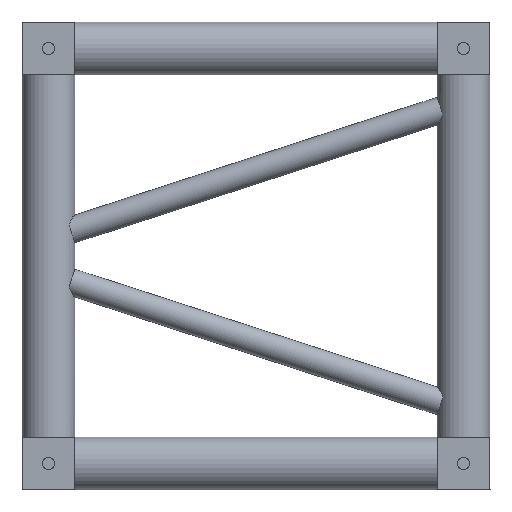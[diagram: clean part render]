
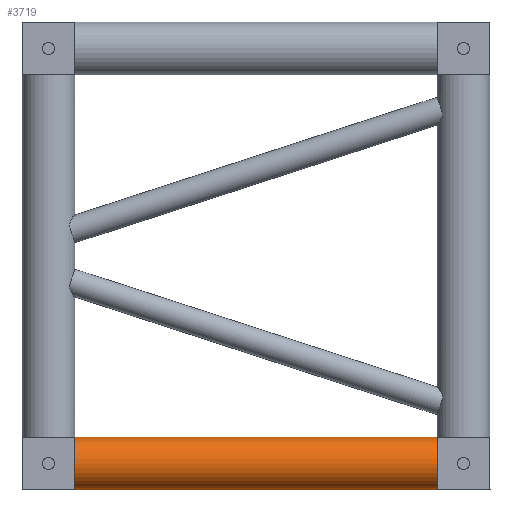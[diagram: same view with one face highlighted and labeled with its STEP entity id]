
A CAD part, left-side view. The second image highlights one B-rep face of the part: STEP entity #3719.
In plain terms, the highlighted cylindrical face has radius 30 mm (diameter 60 mm), a full revolution.
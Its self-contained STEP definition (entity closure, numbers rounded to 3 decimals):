
#684=FACE_BOUND('',#1165,.T.);
#878=FACE_OUTER_BOUND('',#1164,.T.);
#1164=EDGE_LOOP('',(#2737,#2738,#2739,#2740));
#1165=EDGE_LOOP('',(#2741,#2742,#2743,#2744));
#1457=CIRCLE('',#4097,30.);
#1458=CIRCLE('',#4098,30.);
#1459=CIRCLE('',#4099,30.);
#1460=CIRCLE('',#4100,30.);
#1461=CIRCLE('',#4101,30.);
#1462=CIRCLE('',#4102,30.);
#1463=CIRCLE('',#4103,30.);
#1464=CIRCLE('',#4104,30.);
#1605=VERTEX_POINT('',#6696);
#1651=VERTEX_POINT('',#6847);
#1666=VERTEX_POINT('',#6897);
#1712=VERTEX_POINT('',#7059);
#1713=VERTEX_POINT('',#7062);
#1714=VERTEX_POINT('',#7065);
#1715=VERTEX_POINT('',#7067);
#1716=VERTEX_POINT('',#7069);
#2098=EDGE_CURVE('',#1666,#1712,#1457,.T.);
#2099=EDGE_CURVE('',#1605,#1666,#1458,.T.);
#2100=EDGE_CURVE('',#1713,#1605,#1459,.T.);
#2101=EDGE_CURVE('',#1712,#1713,#1460,.T.);
#2102=EDGE_CURVE('',#1714,#1651,#1461,.T.);
#2103=EDGE_CURVE('',#1715,#1714,#1462,.T.);
#2104=EDGE_CURVE('',#1716,#1715,#1463,.T.);
#2105=EDGE_CURVE('',#1651,#1716,#1464,.T.);
#2737=ORIENTED_EDGE('',*,*,#2098,.F.);
#2738=ORIENTED_EDGE('',*,*,#2099,.F.);
#2739=ORIENTED_EDGE('',*,*,#2100,.F.);
#2740=ORIENTED_EDGE('',*,*,#2101,.F.);
#2741=ORIENTED_EDGE('',*,*,#2102,.F.);
#2742=ORIENTED_EDGE('',*,*,#2103,.F.);
#2743=ORIENTED_EDGE('',*,*,#2104,.F.);
#2744=ORIENTED_EDGE('',*,*,#2105,.F.);
#3311=CYLINDRICAL_SURFACE('',#4096,30.);
#3719=ADVANCED_FACE('',(#878,#684),#3311,.T.);
#4096=AXIS2_PLACEMENT_3D('',#7058,#4974,#4975);
#4097=AXIS2_PLACEMENT_3D('',#7060,#4976,#4977);
#4098=AXIS2_PLACEMENT_3D('',#7061,#4978,#4979);
#4099=AXIS2_PLACEMENT_3D('',#7063,#4980,#4981);
#4100=AXIS2_PLACEMENT_3D('',#7064,#4982,#4983);
#4101=AXIS2_PLACEMENT_3D('',#7066,#4984,#4985);
#4102=AXIS2_PLACEMENT_3D('',#7068,#4986,#4987);
#4103=AXIS2_PLACEMENT_3D('',#7070,#4988,#4989);
#4104=AXIS2_PLACEMENT_3D('',#7071,#4990,#4991);
#4974=DIRECTION('center_axis',(0.,1.,0.));
#4975=DIRECTION('ref_axis',(-0.806,0.,0.592));
#4976=DIRECTION('center_axis',(0.,1.,0.));
#4977=DIRECTION('ref_axis',(-0.806,0.,0.592));
#4978=DIRECTION('center_axis',(0.,1.,0.));
#4979=DIRECTION('ref_axis',(-0.806,0.,0.592));
#4980=DIRECTION('center_axis',(0.,1.,0.));
#4981=DIRECTION('ref_axis',(-0.806,0.,0.592));
#4982=DIRECTION('center_axis',(0.,1.,0.));
#4983=DIRECTION('ref_axis',(-0.806,0.,0.592));
#4984=DIRECTION('center_axis',(0.,-1.,0.));
#4985=DIRECTION('ref_axis',(-0.806,0.,0.592));
#4986=DIRECTION('center_axis',(0.,-1.,0.));
#4987=DIRECTION('ref_axis',(-0.806,0.,0.592));
#4988=DIRECTION('center_axis',(0.,-1.,0.));
#4989=DIRECTION('ref_axis',(-0.806,0.,0.592));
#4990=DIRECTION('center_axis',(0.,-1.,0.));
#4991=DIRECTION('ref_axis',(-0.806,0.,0.592));
#6696=CARTESIAN_POINT('',(0.,-30.,-440.));
#6847=CARTESIAN_POINT('',(30.,-440.,-470.));
#6897=CARTESIAN_POINT('',(30.,-30.,-470.));
#7058=CARTESIAN_POINT('Origin',(0.,-440.,
-470.));
#7059=CARTESIAN_POINT('',(0.,-30.,-500.));
#7060=CARTESIAN_POINT('Origin',(0.,-30.,
-470.));
#7061=CARTESIAN_POINT('Origin',(0.,-30.,
-470.));
#7062=CARTESIAN_POINT('',(-30.,-30.,-470.));
#7063=CARTESIAN_POINT('Origin',(0.,-30.,
-470.));
#7064=CARTESIAN_POINT('Origin',(0.,-30.,
-470.));
#7065=CARTESIAN_POINT('',(0.,-440.,-500.));
#7066=CARTESIAN_POINT('Origin',(0.,-440.,
-470.));
#7067=CARTESIAN_POINT('',(-30.,-440.,-470.));
#7068=CARTESIAN_POINT('Origin',(0.,-440.,
-470.));
#7069=CARTESIAN_POINT('',(0.,-440.,-440.));
#7070=CARTESIAN_POINT('Origin',(0.,-440.,
-470.));
#7071=CARTESIAN_POINT('Origin',(0.,-440.,
-470.));
